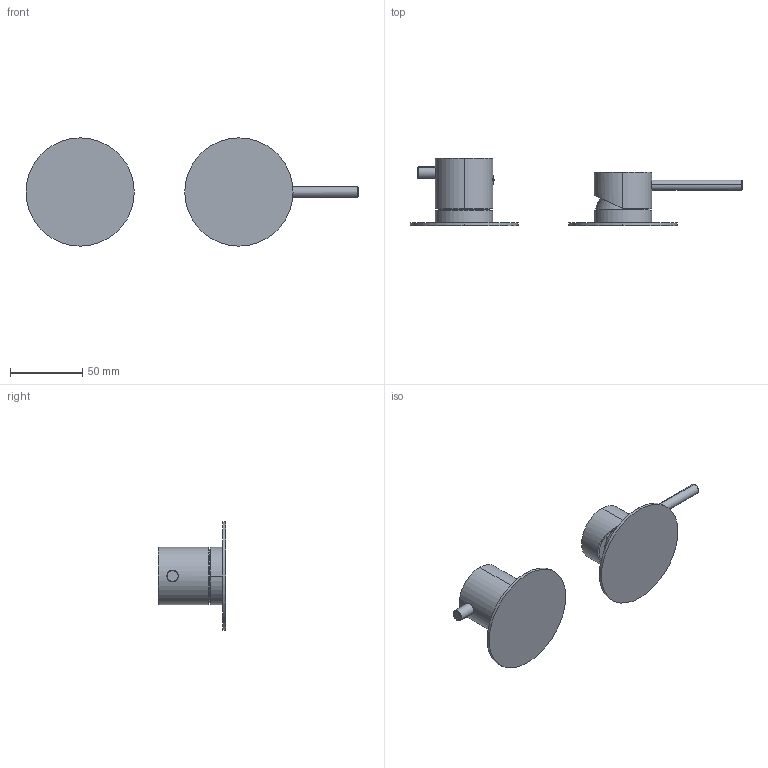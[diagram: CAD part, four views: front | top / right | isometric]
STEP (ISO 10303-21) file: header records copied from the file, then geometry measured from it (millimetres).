
FILE_DESCRIPTION((''),'2;1');
FILE_NAME('69553V221_SW0001','2025-02-14T15:02:00',('carloff'),(''),'CREO PARAMETRIC BY PTC INC, 2022014','CREO PARAMETRIC BY PTC INC, 2022014','');
FILE_SCHEMA(('CONFIG_CONTROL_DESIGN'));
Length unit declared in the file: millimetre
Products named in the file (1): 69553V221_SW0001
Bounding box: 230 x 46.8 x 75 mm (x, y, z)
Volume: 100343.6 mm3; surface area: 37202.8 mm2
Topology: 3 solids, 3 shells, 83 faces, 182 edges, 113 vertices
Faces by surface type: cylinder 34, plane 23, torus 16, cone 6, bspline 2, sphere 2
Entity records: 2682 total; most frequent: CARTESIAN_POINT 790, DIRECTION 420, ORIENTED_EDGE 360, AXIS2_PLACEMENT_3D 185, EDGE_CURVE 180, VERTEX_POINT 113, CIRCLE 104, EDGE_LOOP 95
